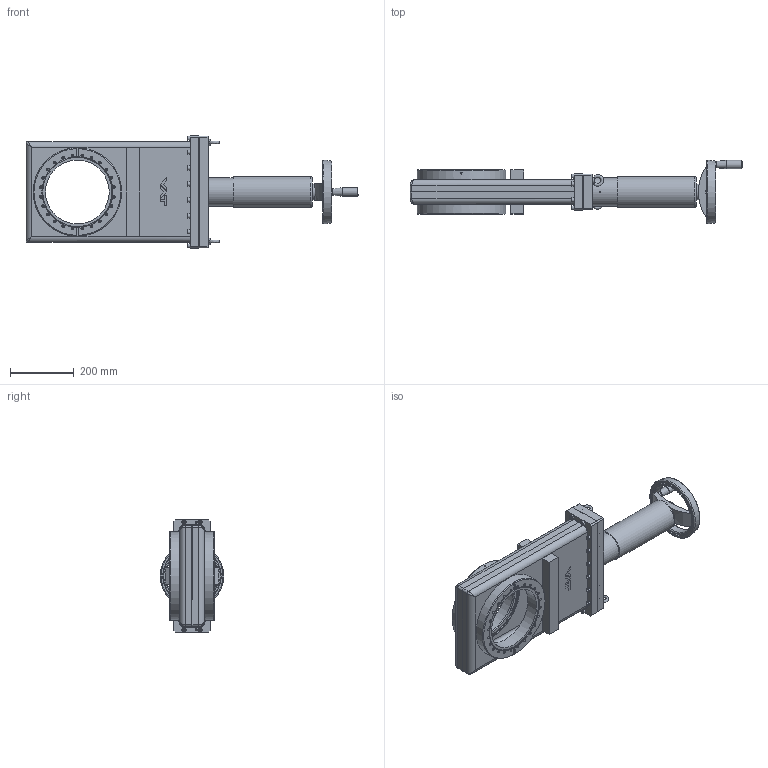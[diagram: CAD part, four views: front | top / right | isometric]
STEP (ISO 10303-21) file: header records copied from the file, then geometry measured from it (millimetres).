
FILE_DESCRIPTION(/* description */ (''),/* implementation_level */ '2;1');
FILE_NAME(/* name */ '1000696201_203.stp',/* time_stamp */ '2010-09-20T11:27:01+02:00',/* author */ (''),/* organization */ (''),/* preprocessor_version */ 'ST-DEVELOPER v11',/* originating_system */ 'SIEMENS UGS NX 6.0',/* authorisation */ '');
FILE_SCHEMA (('CONFIG_CONTROL_DESIGN'));
Length unit declared in the file: millimetre
Products named in the file (14): 85372-01.3; n-6033-403; 85356-01; 99053-01_1; 99051-01_1; N-6001-492.1; N-6137-013.1; 99052-01_4.3; 99052-01_5.4; 85373-01.3; N-6268-220.3; 90495-01.5; N-5019-819.1; 461686
Assembly tree (31 placements, depth 2):
  461686
    N-5019-819.1  x16
    90495-01.5
    N-6268-220.3
    85373-01.3
    99052-01_5.4
    99052-01_4.3
    N-6137-013.1
    N-6001-492.1
    99051-01_1  x2
    99053-01_1
    85356-01  x2
    n-6033-403  x2
    85372-01.3
Bounding box: 1040.4 x 200 x 352 mm (x, y, z)
Volume: 6921912.1 mm3; surface area: 1666324.9 mm2
Topology: 65 solids, 65 shells, 938 faces, 2027 edges, 1310 vertices
Faces by surface type: plane 450, cylinder 328, cone 137, bspline 17, torus 6
Full cylindrical faces by diameter (mm): 3 x1, 4.8 x2, 5.006 x2, 5.6 x2, 6.466 x16, 6.647 x52, 6.66 x17, 6.7 x17, 6.8 x2, 8 x104, 9 x17, 10.106 x2, 12 x2, 12.117 x1, 13 x17, 16.1 x1, 20 x2, 26 x1, 30 x2, 30.05 x2, 31 x1, 48.55 x1, 50 x2, 80.2 x1, 80.8 x1, 81.1 x1, 89.5 x2, 94 x1, 97 x1, 177 x1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
Entity records: 18373 total; most frequent: CARTESIAN_POINT 4433, DIRECTION 2584, ORIENTED_EDGE 1788, AXIS2_PLACEMENT_3D 1147, EDGE_LOOP 1068, FACE_BOUND 980, EDGE_CURVE 894, VERTEX_POINT 815
